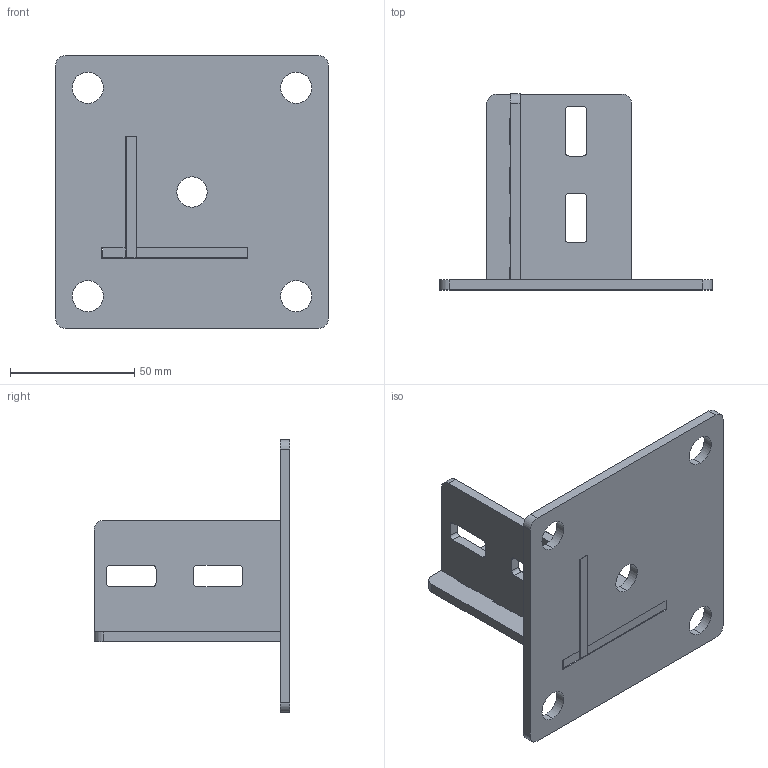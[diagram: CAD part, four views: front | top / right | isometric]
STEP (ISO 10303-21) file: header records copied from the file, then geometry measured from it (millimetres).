
FILE_DESCRIPTION (( 'STEP AP203' ), '1' );
FILE_NAME ('11451.STEP', '2016-08-02T12:35:07', ( '' ), ( '' ), 'SwSTEP 2.0', 'SolidWorks 2014', '' );
FILE_SCHEMA (( 'CONFIG_CONTROL_DESIGN' ));
Length unit declared in the file: millimetre
Products named in the file (7): 11451-2; 11451-1; 11451-3; 11451
Assembly tree (3 placements, depth 2):
  11451-2
  11451-3
  11451
    11451-1
    11451-2
    11451-3
  11451-1
Bounding box: 110 x 79 x 110 mm (x, y, z)
Volume: 73908.2 mm3; surface area: 43840.4 mm2
Topology: 3 solids, 3 shells, 105 faces, 297 edges, 198 vertices
Faces by surface type: plane 72, cylinder 33
Entity records: 4089 total; most frequent: CARTESIAN_POINT 607, ORIENTED_EDGE 594, DIRECTION 587, EDGE_CURVE 297, LINE 231, VECTOR 231, VERTEX_POINT 198, AXIS2_PLACEMENT_3D 178
